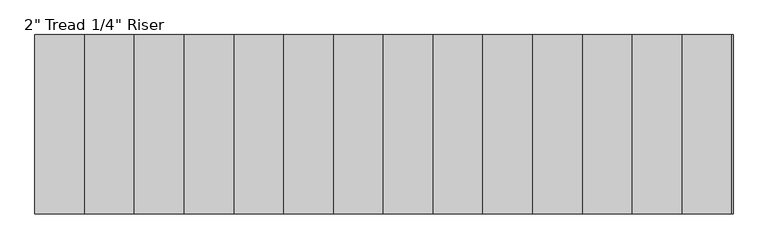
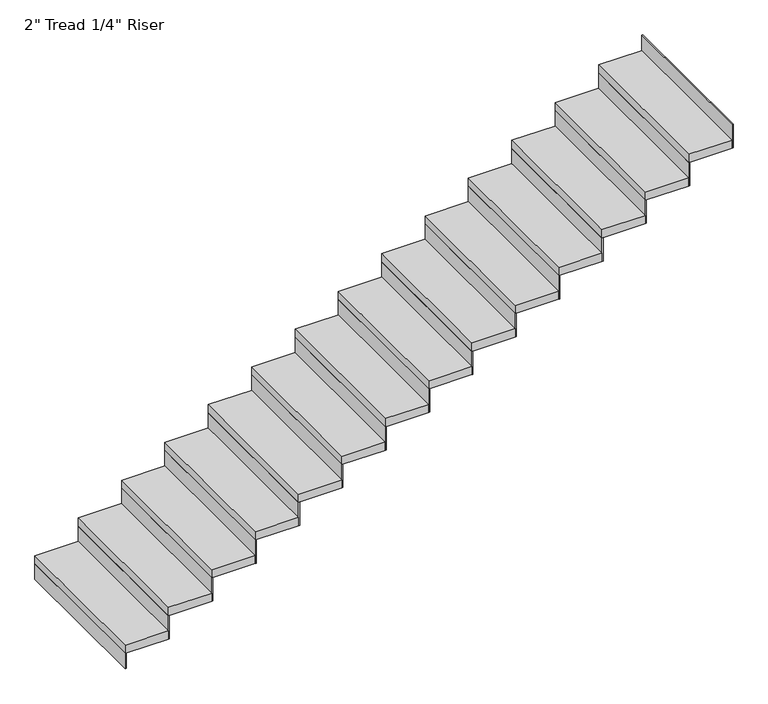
"""IFC4 building model written with IfcOpenShell, lengths in millimetres: stair flight geometry."""

from ifc_helpers import new_model, si_unit, frame, origin, origin_with_axes, place, context, project, spatial, polyline, outline, extrude, source, transform, mapped, element, save


def stair_flight_746c074b(model_context):
    return source(origin(), model_context, "Body", "SweptSolid", [
        extrude(outline(polyline([(133302.5023809, -2400.7855758), (133296.1523809, -2400.7855758), (133296.1523809, -1486.3855758), (133302.5023809, -1486.3855758), (133302.5023809, -2400.7855758)])), origin_with_axes(), (0.0, 0.0, 1.0), 94.3428571),
        extrude(outline(polyline([(133550.1523809, -1486.3855758), (133550.1523809, -2400.7855758), (133296.1523809, -2400.7855758), (133296.1523809, -1486.3855758), (133550.1523809, -1486.3855758)])), frame((0.0, 0.0, 94.3428571), z_axis=(0.0, 0.0, 1.0), x_axis=(1.0, 0.0, 0.0)), (0.0, 0.0, 1.0), 50.8),
        extrude(outline(polyline([(133556.5023809, -2400.7855758), (133550.1523809, -2400.7855758), (133550.1523809, -1486.3855758), (133556.5023809, -1486.3855758), (133556.5023809, -2400.7855758)])), frame((0.0, 0.0, 94.3428571), z_axis=(0.0, 0.0, 1.0), x_axis=(1.0, 0.0, 0.0)), (0.0, 0.0, 1.0), 145.1428571),
        extrude(outline(polyline([(133804.1523809, -1486.3855758), (133804.1523809, -2400.7855758), (133550.1523809, -2400.7855758), (133550.1523809, -1486.3855758), (133804.1523809, -1486.3855758)])), frame((0.0, 0.0, 239.4857143), z_axis=(0.0, 0.0, 1.0), x_axis=(1.0, 0.0, 0.0)), (0.0, 0.0, 1.0), 50.8),
        extrude(outline(polyline([(133810.5023809, -2400.7855758), (133804.1523809, -2400.7855758), (133804.1523809, -1486.3855758), (133810.5023809, -1486.3855758), (133810.5023809, -2400.7855758)])), frame((0.0, 0.0, 239.4857143), z_axis=(0.0, 0.0, 1.0), x_axis=(1.0, 0.0, 0.0)), (0.0, 0.0, 1.0), 145.1428571),
        extrude(outline(polyline([(134058.1523809, -1486.3855758), (134058.1523809, -2400.7855758), (133804.1523809, -2400.7855758), (133804.1523809, -1486.3855758), (134058.1523809, -1486.3855758)])), frame((0.0, 0.0, 384.6285714), z_axis=(0.0, 0.0, 1.0), x_axis=(1.0, 0.0, 0.0)), (0.0, 0.0, 1.0), 50.8),
        extrude(outline(polyline([(134064.5023809, -2400.7855758), (134058.1523809, -2400.7855758), (134058.1523809, -1486.3855758), (134064.5023809, -1486.3855758), (134064.5023809, -2400.7855758)])), frame((0.0, 0.0, 384.6285714), z_axis=(0.0, 0.0, 1.0), x_axis=(1.0, 0.0, 0.0)), (0.0, 0.0, 1.0), 145.1428571),
        extrude(outline(polyline([(134312.1523809, -1486.3855758), (134312.1523809, -2400.7855758), (134058.1523809, -2400.7855758), (134058.1523809, -1486.3855758), (134312.1523809, -1486.3855758)])), frame((0.0, 0.0, 529.7714286), z_axis=(0.0, 0.0, 1.0), x_axis=(1.0, 0.0, 0.0)), (0.0, 0.0, 1.0), 50.8),
        extrude(outline(polyline([(134318.5023809, -2400.7855758), (134312.1523809, -2400.7855758), (134312.1523809, -1486.3855758), (134318.5023809, -1486.3855758), (134318.5023809, -2400.7855758)])), frame((0.0, 0.0, 529.7714286), z_axis=(0.0, 0.0, 1.0), x_axis=(1.0, 0.0, 0.0)), (0.0, 0.0, 1.0), 145.1428571),
        extrude(outline(polyline([(134566.1523809, -1486.3855758), (134566.1523809, -2400.7855758), (134312.1523809, -2400.7855758), (134312.1523809, -1486.3855758), (134566.1523809, -1486.3855758)])), frame((0.0, 0.0, 674.9142857), z_axis=(0.0, 0.0, 1.0), x_axis=(1.0, 0.0, 0.0)), (0.0, 0.0, 1.0), 50.8),
        extrude(outline(polyline([(134572.5023809, -2400.7855758), (134566.1523809, -2400.7855758), (134566.1523809, -1486.3855758), (134572.5023809, -1486.3855758), (134572.5023809, -2400.7855758)])), frame((0.0, 0.0, 674.9142857), z_axis=(0.0, 0.0, 1.0), x_axis=(1.0, 0.0, 0.0)), (0.0, 0.0, 1.0), 145.1428571),
        extrude(outline(polyline([(134820.1523809, -1486.3855758), (134820.1523809, -2400.7855758), (134566.1523809, -2400.7855758), (134566.1523809, -1486.3855758), (134820.1523809, -1486.3855758)])), frame((0.0, 0.0, 820.0571429), z_axis=(0.0, 0.0, 1.0), x_axis=(1.0, 0.0, 0.0)), (0.0, 0.0, 1.0), 50.8),
        extrude(outline(polyline([(134826.5023809, -2400.7855758), (134820.1523809, -2400.7855758), (134820.1523809, -1486.3855758), (134826.5023809, -1486.3855758), (134826.5023809, -2400.7855758)])), frame((0.0, 0.0, 820.0571429), z_axis=(0.0, 0.0, 1.0), x_axis=(1.0, 0.0, 0.0)), (0.0, 0.0, 1.0), 145.1428571),
        extrude(outline(polyline([(135074.1523809, -1486.3855758), (135074.1523809, -2400.7855758), (134820.1523809, -2400.7855758), (134820.1523809, -1486.3855758), (135074.1523809, -1486.3855758)])), frame((0.0, 0.0, 965.2), z_axis=(0.0, 0.0, 1.0), x_axis=(1.0, 0.0, 0.0)), (0.0, 0.0, 1.0), 50.8),
        extrude(outline(polyline([(135080.5023809, -2400.7855758), (135074.1523809, -2400.7855758), (135074.1523809, -1486.3855758), (135080.5023809, -1486.3855758), (135080.5023809, -2400.7855758)])), frame((0.0, 0.0, 965.2), z_axis=(0.0, 0.0, 1.0), x_axis=(1.0, 0.0, 0.0)), (0.0, 0.0, 1.0), 145.1428571),
        extrude(outline(polyline([(135328.1523809, -1486.3855758), (135328.1523809, -2400.7855758), (135074.1523809, -2400.7855758), (135074.1523809, -1486.3855758), (135328.1523809, -1486.3855758)])), frame((0.0, 0.0, 1110.3428571), z_axis=(0.0, 0.0, 1.0), x_axis=(1.0, 0.0, 0.0)), (0.0, 0.0, 1.0), 50.8),
        extrude(outline(polyline([(135334.5023809, -2400.7855758), (135328.1523809, -2400.7855758), (135328.1523809, -1486.3855758), (135334.5023809, -1486.3855758), (135334.5023809, -2400.7855758)])), frame((0.0, 0.0, 1110.3428571), z_axis=(0.0, 0.0, 1.0), x_axis=(1.0, 0.0, 0.0)), (0.0, 0.0, 1.0), 145.1428571),
        extrude(outline(polyline([(135582.1523809, -1486.3855758), (135582.1523809, -2400.7855758), (135328.1523809, -2400.7855758), (135328.1523809, -1486.3855758), (135582.1523809, -1486.3855758)])), frame((0.0, 0.0, 1255.4857143), z_axis=(0.0, 0.0, 1.0), x_axis=(1.0, 0.0, 0.0)), (0.0, 0.0, 1.0), 50.8),
        extrude(outline(polyline([(135588.5023809, -2400.7855758), (135582.1523809, -2400.7855758), (135582.1523809, -1486.3855758), (135588.5023809, -1486.3855758), (135588.5023809, -2400.7855758)])), frame((0.0, 0.0, 1255.4857143), z_axis=(0.0, 0.0, 1.0), x_axis=(1.0, 0.0, 0.0)), (0.0, 0.0, 1.0), 145.1428571),
        extrude(outline(polyline([(135836.1523809, -1486.3855758), (135836.1523809, -2400.7855758), (135582.1523809, -2400.7855758), (135582.1523809, -1486.3855758), (135836.1523809, -1486.3855758)])), frame((0.0, 0.0, 1400.6285714), z_axis=(0.0, 0.0, 1.0), x_axis=(1.0, 0.0, 0.0)), (0.0, 0.0, 1.0), 50.8),
        extrude(outline(polyline([(135842.5023809, -2400.7855758), (135836.1523809, -2400.7855758), (135836.1523809, -1486.3855758), (135842.5023809, -1486.3855758), (135842.5023809, -2400.7855758)])), frame((0.0, 0.0, 1400.6285714), z_axis=(0.0, 0.0, 1.0), x_axis=(1.0, 0.0, 0.0)), (0.0, 0.0, 1.0), 145.1428571),
        extrude(outline(polyline([(136090.1523809, -1486.3855758), (136090.1523809, -2400.7855758), (135836.1523809, -2400.7855758), (135836.1523809, -1486.3855758), (136090.1523809, -1486.3855758)])), frame((0.0, 0.0, 1545.7714286), z_axis=(0.0, 0.0, 1.0), x_axis=(1.0, 0.0, 0.0)), (0.0, 0.0, 1.0), 50.8),
        extrude(outline(polyline([(136096.5023809, -2400.7855758), (136090.1523809, -2400.7855758), (136090.1523809, -1486.3855758), (136096.5023809, -1486.3855758), (136096.5023809, -2400.7855758)])), frame((0.0, 0.0, 1545.7714286), z_axis=(0.0, 0.0, 1.0), x_axis=(1.0, 0.0, 0.0)), (0.0, 0.0, 1.0), 145.1428571),
        extrude(outline(polyline([(136344.1523809, -1486.3855758), (136344.1523809, -2400.7855758), (136090.1523809, -2400.7855758), (136090.1523809, -1486.3855758), (136344.1523809, -1486.3855758)])), frame((0.0, 0.0, 1690.9142857), z_axis=(0.0, 0.0, 1.0), x_axis=(1.0, 0.0, 0.0)), (0.0, 0.0, 1.0), 50.8),
        extrude(outline(polyline([(136350.5023809, -2400.7855758), (136344.1523809, -2400.7855758), (136344.1523809, -1486.3855758), (136350.5023809, -1486.3855758), (136350.5023809, -2400.7855758)])), frame((0.0, 0.0, 1690.9142857), z_axis=(0.0, 0.0, 1.0), x_axis=(1.0, 0.0, 0.0)), (0.0, 0.0, 1.0), 145.1428571),
        extrude(outline(polyline([(136598.1523809, -1486.3855758), (136598.1523809, -2400.7855758), (136344.1523809, -2400.7855758), (136344.1523809, -1486.3855758), (136598.1523809, -1486.3855758)])), frame((0.0, 0.0, 1836.0571429), z_axis=(0.0, 0.0, 1.0), x_axis=(1.0, 0.0, 0.0)), (0.0, 0.0, 1.0), 50.8),
        extrude(outline(polyline([(136604.5023809, -2400.7855758), (136598.1523809, -2400.7855758), (136598.1523809, -1486.3855758), (136604.5023809, -1486.3855758), (136604.5023809, -2400.7855758)])), frame((0.0, 0.0, 1836.0571429), z_axis=(0.0, 0.0, 1.0), x_axis=(1.0, 0.0, 0.0)), (0.0, 0.0, 1.0), 145.1428571),
        extrude(outline(polyline([(136858.5023809, -2400.7855758), (136852.1523809, -2400.7855758), (136852.1523809, -1486.3855758), (136858.5023809, -1486.3855758), (136858.5023809, -2400.7855758)])), frame((0.0, 0.0, 1981.2), z_axis=(0.0, 0.0, 1.0), x_axis=(1.0, 0.0, 0.0)), (0.0, 0.0, 1.0), 145.1428571),
        extrude(outline(polyline([(136852.1523809, -1486.3855758), (136852.1523809, -2400.7855758), (136598.1523809, -2400.7855758), (136598.1523809, -1486.3855758), (136852.1523809, -1486.3855758)])), frame((0.0, 0.0, 1981.2), z_axis=(0.0, 0.0, 1.0), x_axis=(1.0, 0.0, 0.0)), (0.0, 0.0, 1.0), 50.8),
    ])


if __name__ == "__main__":
    model = new_model("IFC4")
    model_context = context("Model", 3, world=origin())
    ifc_project = project(units=[si_unit("LENGTHUNIT", "METRE", prefix="MILLI")], contexts=[model_context])
    site = spatial("IfcSite", under=ifc_project)
    building = spatial("IfcBuilding", under=site)
    placement = place(None, origin())
    stair_flight_shape = stair_flight_746c074b(model_context)
    element("IfcStairFlight", 1, ObjectType="2\" Tread 1/4\" Riser", at=placement, inside=building, context=model_context, shape_type="MappedRepresentation", body=[
        mapped(stair_flight_shape, transform((0.0, 0.0, 0.0), x_axis=(1.0, 0.0, 0.0), y_axis=(0.0, 1.0, 0.0), z_axis=(0.0, 0.0, 1.0))),
    ])
    save(model, "model.ifc")
